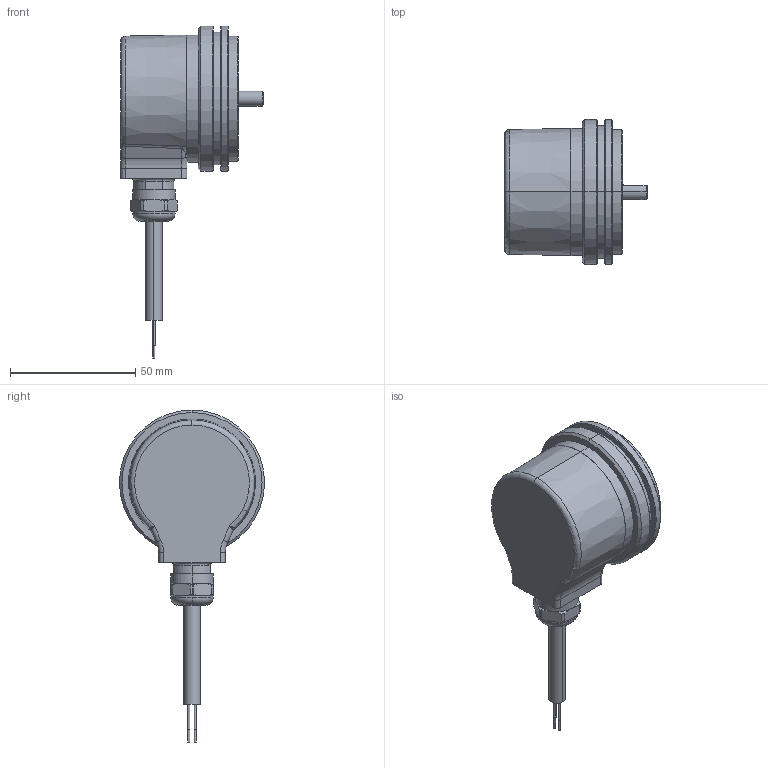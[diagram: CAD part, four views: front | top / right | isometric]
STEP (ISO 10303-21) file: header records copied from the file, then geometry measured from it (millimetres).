
FILE_DESCRIPTION (( 'STEP AP214' ), '1' );
FILE_NAME ('8.5000.A1X2.XXXX.STEP', '2014-04-22T09:32:36', ( 'LauferA' ), ( 'Microsoft' ), 'SwSTEP 2.0', 'SolidWorks 2013', '' );
FILE_SCHEMA (( 'AUTOMOTIVE_DESIGN' ));
Length unit declared in the file: millimetre
Products named in the file (1): 8.5000.A1X2.XXXX
Bounding box: 57 x 58 x 132.7 mm (x, y, z)
Volume: 65476.8 mm3; surface area: 34829.1 mm2
Topology: 7 solids, 7 shells, 352 faces, 773 edges, 458 vertices
Faces by surface type: cylinder 132, cone 89, plane 82, torus 41, bspline 8
Entity records: 14059 total; most frequent: CARTESIAN_POINT 2274, DIRECTION 1791, ORIENTED_EDGE 1510, AXIS2_PLACEMENT_3D 755, EDGE_CURVE 755, VERTEX_POINT 458, CIRCLE 410, EDGE_LOOP 403
